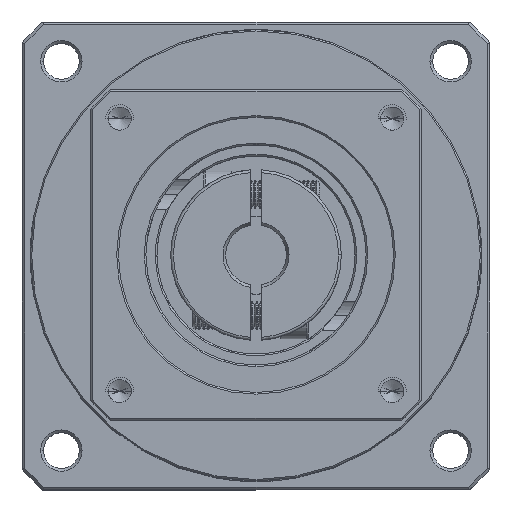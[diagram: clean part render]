
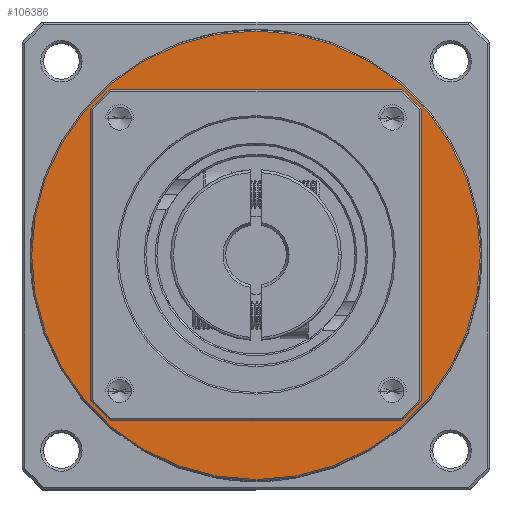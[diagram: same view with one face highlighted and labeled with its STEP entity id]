
A CAD part, top view. The second image highlights one B-rep face of the part: STEP entity #106386.
In plain terms, the highlighted planar face has unit normal (0, 0, 1).
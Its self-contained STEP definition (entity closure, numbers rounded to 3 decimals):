
#2476 = AXIS2_PLACEMENT_3D ( 'NONE', #110999, #121213, #60277 ) ;
#9919 = DIRECTION ( 'NONE',  ( 1., 0., 0. ) ) ;
#11015 = VERTEX_POINT ( 'NONE', #129031 ) ;
#11389 = DIRECTION ( 'NONE',  ( 1., 0., 0. ) ) ;
#14014 = ORIENTED_EDGE ( 'NONE', *, *, #74670, .F. ) ;
#16643 = VERTEX_POINT ( 'NONE', #79082 ) ;
#20051 = VERTEX_POINT ( 'NONE', #114232 ) ;
#21355 = CARTESIAN_POINT ( 'NONE',  ( -112.27, 46.613, -42.081 ) ) ;
#30252 = CIRCLE ( 'NONE', #46414, 30. ) ;
#30848 = CIRCLE ( 'NONE', #58875, 40.75 ) ;
#31400 = EDGE_LOOP ( 'NONE', ( #45215, #127189 ) ) ;
#32359 = DIRECTION ( 'NONE',  ( 0., 0., 1. ) ) ;
#34057 = EDGE_CURVE ( 'NONE', #20051, #71771, #129905, .T. ) ;
#34901 = EDGE_CURVE ( 'NONE', #71771, #20051, #30848, .T. ) ;
#38377 = DIRECTION ( 'NONE',  ( 0., 0., 1. ) ) ;
#41110 = DIRECTION ( 'NONE',  ( 0., 0., 1. ) ) ;
#45215 = ORIENTED_EDGE ( 'NONE', *, *, #34901, .T. ) ;
#46414 = AXIS2_PLACEMENT_3D ( 'NONE', #61169, #41110, #9919 ) ;
#51014 = ORIENTED_EDGE ( 'NONE', *, *, #77139, .F. ) ;
#52021 = CARTESIAN_POINT ( 'NONE',  ( -71.52, 46.613, -42.081 ) ) ;
#53659 = CARTESIAN_POINT ( 'NONE',  ( -71.52, 46.613, -42.081 ) ) ;
#58875 = AXIS2_PLACEMENT_3D ( 'NONE', #52021, #71728, #123679 ) ;
#60277 = DIRECTION ( 'NONE',  ( 1., 0., 0. ) ) ;
#61169 = CARTESIAN_POINT ( 'NONE',  ( -71.52, 46.613, -42.081 ) ) ;
#66731 = FACE_BOUND ( 'NONE', #122694, .T. ) ;
#69056 = AXIS2_PLACEMENT_3D ( 'NONE', #53659, #32359, #11389 ) ;
#69564 = DIRECTION ( 'NONE',  ( 1., 0., 0. ) ) ;
#71728 = DIRECTION ( 'NONE',  ( 0., 0., 1. ) ) ;
#71771 = VERTEX_POINT ( 'NONE', #21355 ) ;
#74670 = EDGE_CURVE ( 'NONE', #11015, #16643, #128803, .T. ) ;
#77139 = EDGE_CURVE ( 'NONE', #16643, #11015, #30252, .T. ) ;
#77825 = AXIS2_PLACEMENT_3D ( 'NONE', #108313, #38377, #69564 ) ;
#79082 = CARTESIAN_POINT ( 'NONE',  ( -101.52, 46.613, -42.081 ) ) ;
#106101 = PLANE ( 'NONE',  #77825 ) ;
#106386 = ADVANCED_FACE ( 'NONE', ( #66731, #125477 ), #106101, .T. ) ;
#108313 = CARTESIAN_POINT ( 'NONE',  ( -71.52, 46.613, -42.081 ) ) ;
#110999 = CARTESIAN_POINT ( 'NONE',  ( -71.52, 46.613, -42.081 ) ) ;
#114232 = CARTESIAN_POINT ( 'NONE',  ( -30.77, 46.613, -42.081 ) ) ;
#121213 = DIRECTION ( 'NONE',  ( 0., 0., 1. ) ) ;
#122694 = EDGE_LOOP ( 'NONE', ( #51014, #14014 ) ) ;
#123679 = DIRECTION ( 'NONE',  ( 1., 0., 0. ) ) ;
#125477 = FACE_OUTER_BOUND ( 'NONE', #31400, .T. ) ;
#127189 = ORIENTED_EDGE ( 'NONE', *, *, #34057, .T. ) ;
#128803 = CIRCLE ( 'NONE', #2476, 30. ) ;
#129031 = CARTESIAN_POINT ( 'NONE',  ( -41.52, 46.613, -42.081 ) ) ;
#129905 = CIRCLE ( 'NONE', #69056, 40.75 ) ;
